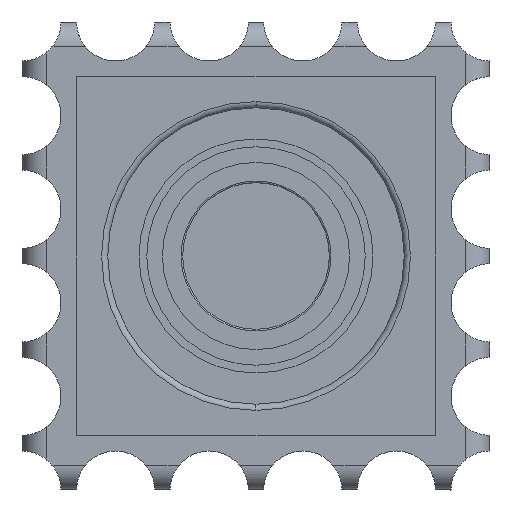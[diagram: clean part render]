
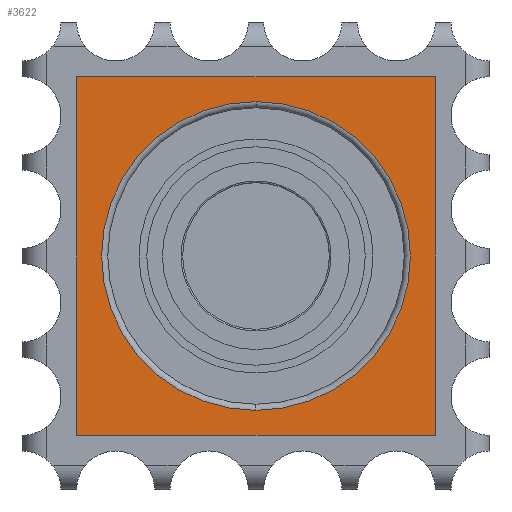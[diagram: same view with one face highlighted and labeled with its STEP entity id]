
A CAD part, front view. The second image highlights one B-rep face of the part: STEP entity #3622.
In plain terms, the highlighted planar face has unit normal (0, -1, 0).
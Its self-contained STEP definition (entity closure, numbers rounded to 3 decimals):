
#325 = DIRECTION ( 'NONE',  ( 0., 0., -1. ) ) ;
#346 = EDGE_CURVE ( 'NONE', #5916, #4216, #1291, .T. ) ;
#396 = CIRCLE ( 'NONE', #1474, 49.5 ) ;
#417 = CARTESIAN_POINT ( 'NONE',  ( 57.5, 0., 57.5 ) ) ;
#419 = EDGE_CURVE ( 'NONE', #4216, #2102, #1907, .T. ) ;
#463 = ORIENTED_EDGE ( 'NONE', *, *, #1110, .T. ) ;
#485 = DIRECTION ( 'NONE',  ( -1., 0., 0. ) ) ;
#660 = DIRECTION ( 'NONE',  ( 0., 0., -1. ) ) ;
#684 = ORIENTED_EDGE ( 'NONE', *, *, #346, .T. ) ;
#696 = PLANE ( 'NONE',  #3224 ) ;
#866 = CARTESIAN_POINT ( 'NONE',  ( -57.5, 0., -57.5 ) ) ;
#1007 = VECTOR ( 'NONE', #3718, 1000. ) ;
#1110 = EDGE_CURVE ( 'NONE', #2102, #4375, #4677, .T. ) ;
#1274 = FACE_OUTER_BOUND ( 'NONE', #3837, .T. ) ;
#1291 = LINE ( 'NONE', #3079, #5086 ) ;
#1406 = DIRECTION ( 'NONE',  ( 0., 0., -1. ) ) ;
#1415 = ORIENTED_EDGE ( 'NONE', *, *, #3230, .T. ) ;
#1474 = AXIS2_PLACEMENT_3D ( 'NONE', #4411, #4895, #1925 ) ;
#1833 = CARTESIAN_POINT ( 'NONE',  ( 0., 0., 0. ) ) ;
#1907 = LINE ( 'NONE', #5155, #2983 ) ;
#1925 = DIRECTION ( 'NONE',  ( 0., 0., -1. ) ) ;
#1990 = CARTESIAN_POINT ( 'NONE',  ( 57.5, 0., 57.5 ) ) ;
#2102 = VERTEX_POINT ( 'NONE', #5922 ) ;
#2156 = LINE ( 'NONE', #1990, #3475 ) ;
#2724 = CARTESIAN_POINT ( 'NONE',  ( 57.5, 0., -57.5 ) ) ;
#2983 = VECTOR ( 'NONE', #4169, 1000. ) ;
#3079 = CARTESIAN_POINT ( 'NONE',  ( -57.5, 0., 57.5 ) ) ;
#3089 = EDGE_CURVE ( 'NONE', #3279, #4845, #5577, .T. ) ;
#3224 = AXIS2_PLACEMENT_3D ( 'NONE', #5145, #4271, #325 ) ;
#3230 = EDGE_CURVE ( 'NONE', #4845, #3279, #396, .T. ) ;
#3279 = VERTEX_POINT ( 'NONE', #5957 ) ;
#3475 = VECTOR ( 'NONE', #485, 1000. ) ;
#3622 = ADVANCED_FACE ( 'NONE', ( #5075, #1274 ), #696, .T. ) ;
#3718 = DIRECTION ( 'NONE',  ( 0., 0., 1. ) ) ;
#3837 = EDGE_LOOP ( 'NONE', ( #6042, #463, #5397, #684 ) ) ;
#4169 = DIRECTION ( 'NONE',  ( 1., 0., 0. ) ) ;
#4216 = VERTEX_POINT ( 'NONE', #866 ) ;
#4271 = DIRECTION ( 'NONE',  ( 0., -1., 0. ) ) ;
#4375 = VERTEX_POINT ( 'NONE', #417 ) ;
#4411 = CARTESIAN_POINT ( 'NONE',  ( 0., 0., 0. ) ) ;
#4416 = CARTESIAN_POINT ( 'NONE',  ( 0., 0., -49.5 ) ) ;
#4677 = LINE ( 'NONE', #2724, #1007 ) ;
#4845 = VERTEX_POINT ( 'NONE', #4416 ) ;
#4895 = DIRECTION ( 'NONE',  ( 0., 1., 0. ) ) ;
#5075 = FACE_BOUND ( 'NONE', #5377, .T. ) ;
#5086 = VECTOR ( 'NONE', #660, 1000. ) ;
#5145 = CARTESIAN_POINT ( 'NONE',  ( 0., 0., 0. ) ) ;
#5155 = CARTESIAN_POINT ( 'NONE',  ( -57.5, 0., -57.5 ) ) ;
#5195 = CARTESIAN_POINT ( 'NONE',  ( -57.5, 0., 57.5 ) ) ;
#5377 = EDGE_LOOP ( 'NONE', ( #1415, #5396 ) ) ;
#5396 = ORIENTED_EDGE ( 'NONE', *, *, #3089, .T. ) ;
#5397 = ORIENTED_EDGE ( 'NONE', *, *, #6240, .T. ) ;
#5577 = CIRCLE ( 'NONE', #6117, 49.5 ) ;
#5865 = DIRECTION ( 'NONE',  ( 0., 1., 0. ) ) ;
#5916 = VERTEX_POINT ( 'NONE', #5195 ) ;
#5922 = CARTESIAN_POINT ( 'NONE',  ( 57.5, 0., -57.5 ) ) ;
#5957 = CARTESIAN_POINT ( 'NONE',  ( 0., 0., 49.5 ) ) ;
#6042 = ORIENTED_EDGE ( 'NONE', *, *, #419, .T. ) ;
#6117 = AXIS2_PLACEMENT_3D ( 'NONE', #1833, #5865, #1406 ) ;
#6240 = EDGE_CURVE ( 'NONE', #4375, #5916, #2156, .T. ) ;
